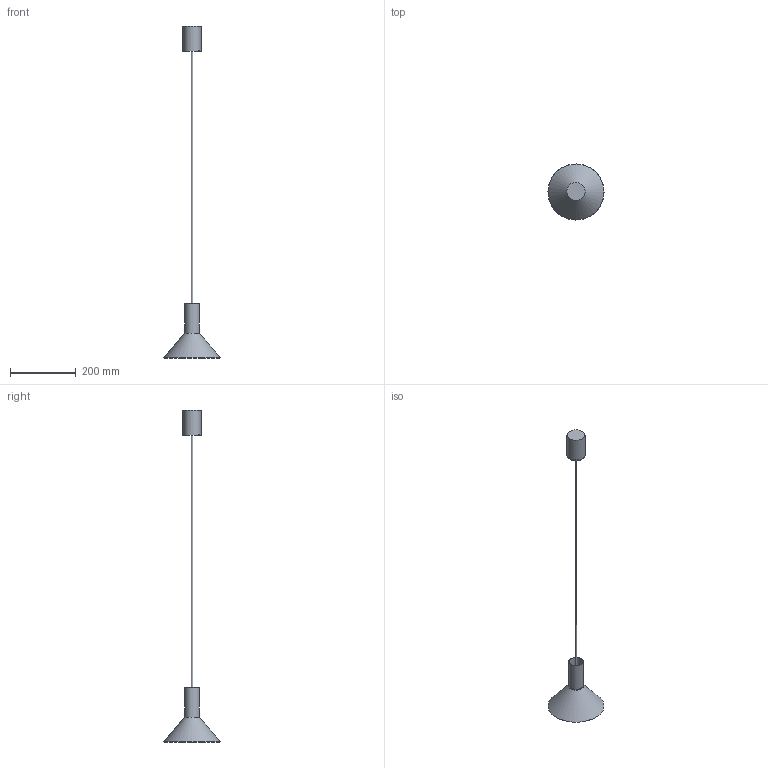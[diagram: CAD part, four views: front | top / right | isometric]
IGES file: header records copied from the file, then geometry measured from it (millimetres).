
Start section: SolidWorks IGES file using analytic representation for surfaces
Global section: file name: X:\PRODUKT\Modele 3D_WWW\_KOLEKCJE WWW\HERMANOS\8103\HERMANOS-I-8103.IGS; native system: SolidWorks 2021; preprocessor: SolidWorks 2021; author: gabriela.tworek; date: 220912.090333; units: millimetre
Bounding box: 170.39 x 170.39 x 1007.72 mm (x, y, z)
Surface area: 131678.6 mm2 (no closed solid volume)
Topology: 0 solids, 0 shells, 25 faces, 60 edges, 45 vertices
Faces by surface type: revolution 15, bspline 10
